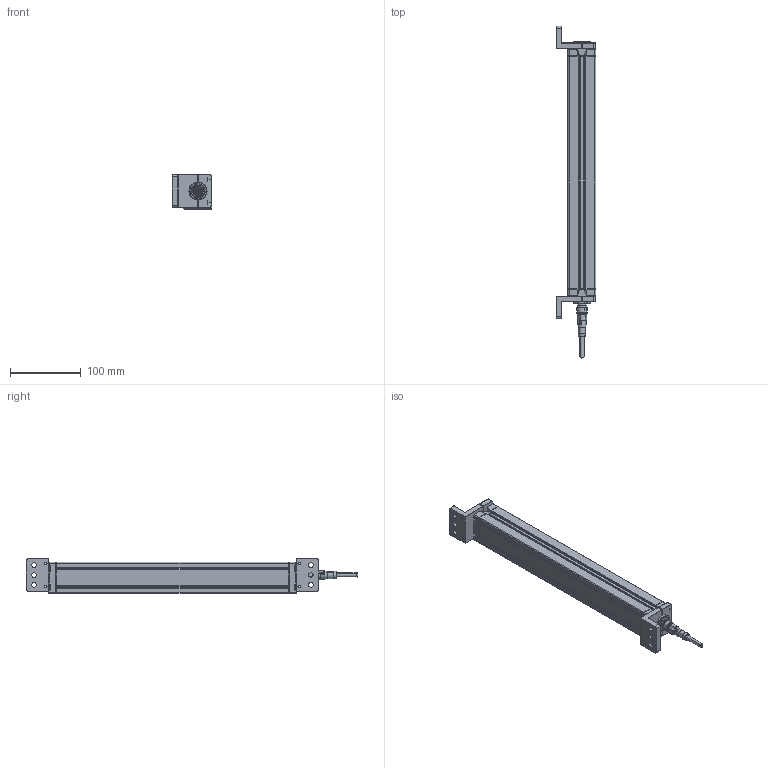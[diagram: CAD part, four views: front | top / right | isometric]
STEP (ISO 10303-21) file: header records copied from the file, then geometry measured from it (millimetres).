
FILE_DESCRIPTION (( 'STEP AP214' ), '1' );
FILE_NAME ('SH10 11.8in with Brackets Step.STEP', '2026-09-02T19:26:26', ( '' ), ( '' ), 'SwSTEP 2.0', 'SolidWorks 2025', '' );
FILE_SCHEMA (( 'AUTOMOTIVE_DESIGN' ));
Length unit declared in the file: millimetre
Products named in the file (4): SH10 11.8in with Brackets Step; 02-4017-00_V241.stp; Cable Female End; MX4XYY-300
Assembly tree (4 placements, depth 2):
  SH10 11.8in with Brackets Step
    MX4XYY-300
    02-4017-00_V241.stp  x2
    Cable Female End
Bounding box: 56.2 x 468.64 x 48.75 mm (x, y, z)
Volume: 263053.5 mm3; surface area: 182194.2 mm2
Topology: 12 solids, 12 shells, 1215 faces, 3151 edges, 1991 vertices
Faces by surface type: cylinder 563, plane 411, bspline 143, torus 52, cone 46
Entity records: 48750 total; most frequent: CARTESIAN_POINT 13062, ORIENTED_EDGE 5752, DIRECTION 5674, EDGE_CURVE 2876, AXIS2_PLACEMENT_3D 2112, VERTEX_POINT 1843, LINE 1450, VECTOR 1450
